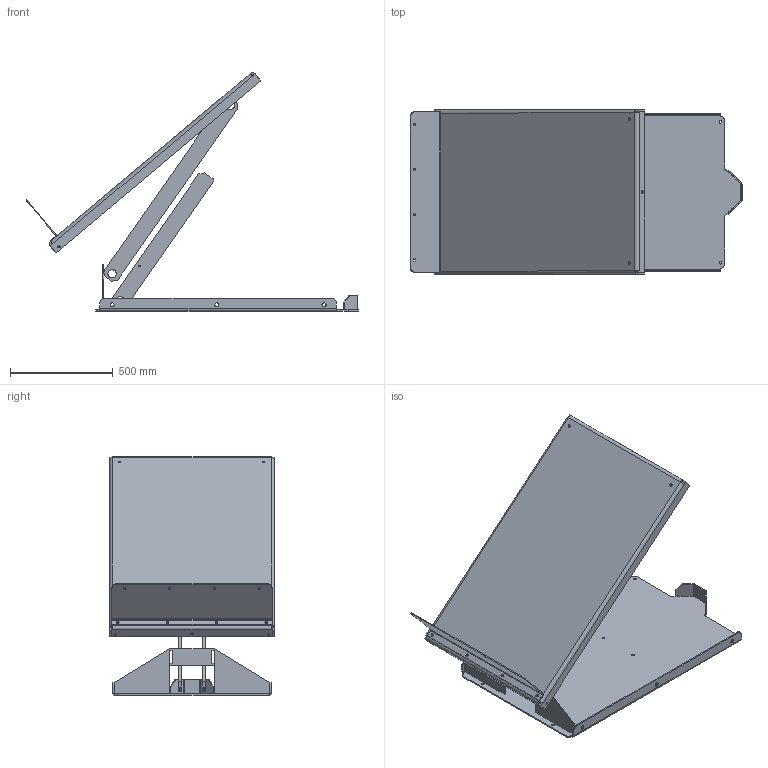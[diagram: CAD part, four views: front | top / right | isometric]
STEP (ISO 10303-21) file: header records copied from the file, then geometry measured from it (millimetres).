
FILE_DESCRIPTION(/* description */ ('ALT 750'),/* implementation_level */ '2;1');
FILE_NAME(/* name */ 'C:\Autodesk_VaultWork\Ritningar\TMP2\22035_Elevated-40-Degrees.stp',/* time_stamp */ '2017-08-21T09:19:47+02:00',/* author */ ('johso'),/* organization */ (''),/* preprocessor_version */ 'ST-DEVELOPER v16.5',/* originating_system */ 'Autodesk Inventor 2017',/* authorisation */ '');
FILE_SCHEMA (('AUTOMOTIVE_DESIGN { 1 0 10303 214 3 1 1 }'));
Length unit declared in the file: millimetre
Products named in the file (12): 22035.tmp; 610072; 610075; 610074; 34509; 35006; 35007; 35002; 35001-1; 35004; 34017; 34157
Assembly tree (13 placements, depth 3):
  22035.tmp
    610072
      610075
      610074
      34509
    35006
      35007  x2
    35002
      35001-1
    35004
      34017  x2
    34157
Bounding box: 1613.49 x 800 x 1158.83 mm (x, y, z)
Volume: 21809646.6 mm3; surface area: 5965895.6 mm2
Topology: 9 solids, 9 shells, 407 faces, 1107 edges, 718 vertices
Faces by surface type: cylinder 213, plane 194
Full cylindrical faces by diameter (mm): 6 x2, 11 x4, 12 x6, 12.5 x6, 13 x6, 20 x6, 40.3 x2, 46.3 x2
Entity records: 11768 total; most frequent: DIRECTION 2105, CARTESIAN_POINT 1964, ORIENTED_EDGE 1894, EDGE_CURVE 947, AXIS2_PLACEMENT_3D 769, VERTEX_POINT 628, LINE 567, VECTOR 567
